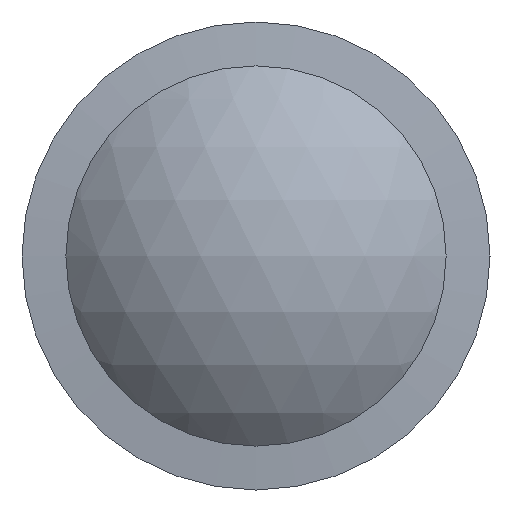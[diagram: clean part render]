
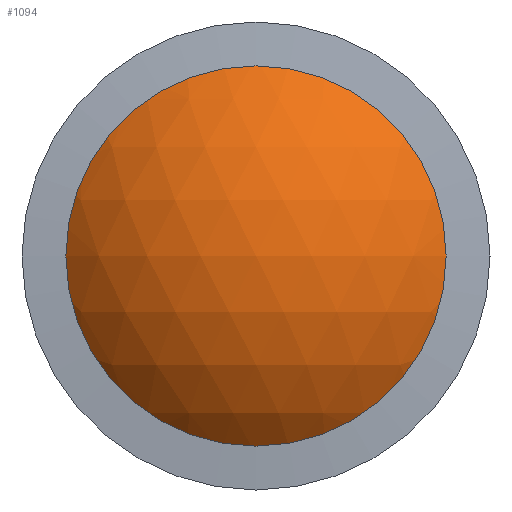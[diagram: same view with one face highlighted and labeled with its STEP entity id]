
A CAD part, left-side view. The second image highlights one B-rep face of the part: STEP entity #1094.
In plain terms, the highlighted spherical face has radius 13.566 mm.
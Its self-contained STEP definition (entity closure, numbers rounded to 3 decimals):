
#29=SPHERICAL_SURFACE('',#1343,13.566);
#307=FACE_OUTER_BOUND('',#411,.T.);
#411=EDGE_LOOP('',(#978));
#490=CIRCLE('',#1341,10.);
#576=VERTEX_POINT('',#2039);
#711=EDGE_CURVE('',#576,#576,#490,.T.);
#978=ORIENTED_EDGE('',*,*,#711,.T.);
#1094=ADVANCED_FACE('',(#307),#29,.T.);
#1341=AXIS2_PLACEMENT_3D('',#2041,#1719,#1720);
#1343=AXIS2_PLACEMENT_3D('',#2043,#1723,#1724);
#1719=DIRECTION('center_axis',(-1.,0.,0.));
#1720=DIRECTION('ref_axis',(0.,0.,-1.));
#1723=DIRECTION('center_axis',(0.,0.,1.));
#1724=DIRECTION('ref_axis',(-1.,0.005,0.));
#2039=CARTESIAN_POINT('',(2000.868,432.303,0.));
#2041=CARTESIAN_POINT('Origin',(2000.868,442.303,0.));
#2043=CARTESIAN_POINT('Origin',(2010.036,442.303,0.));
